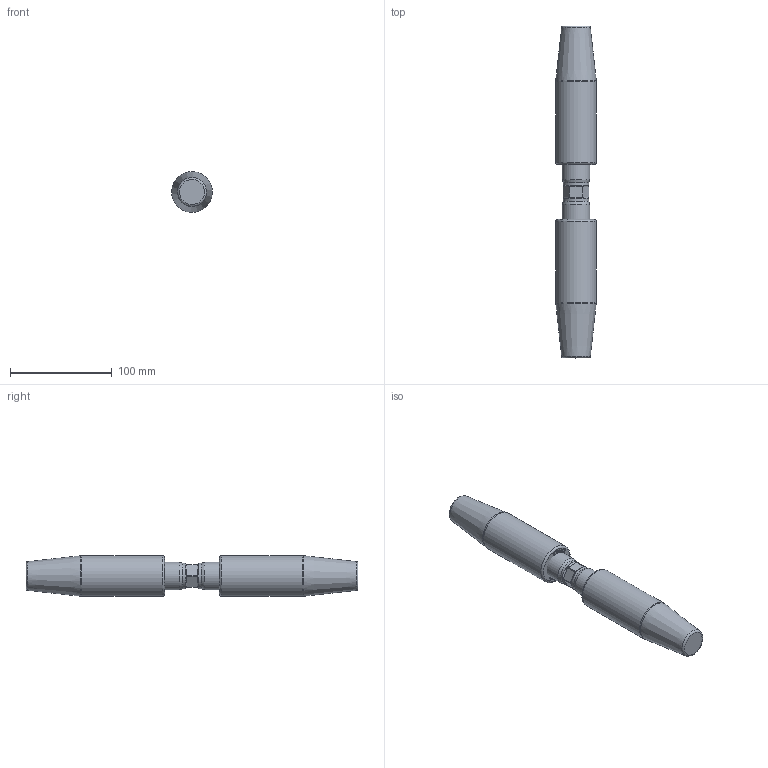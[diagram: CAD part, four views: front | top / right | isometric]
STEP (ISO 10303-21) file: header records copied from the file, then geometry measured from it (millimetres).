
FILE_DESCRIPTION(/* description */ (''),/* implementation_level */ '2;1');
FILE_NAME(/* name */ 'D:\Clienti\Redaelli (inventor)\CYA\STEP\Arrangement\CYA012 52 061 2.stp',/* time_stamp */ '2021-05-09T09:56:09+02:00',/* author */ ('fabri'),/* organization */ (''),/* preprocessor_version */ 'ST-DEVELOPER v16.13',/* originating_system */ 'Autodesk Inventor 2018',/* authorisation */ '');
FILE_SCHEMA (('AUTOMOTIVE_DESIGN { 1 0 10303 214 3 1 1 }'));
Length unit declared in the file: millimetre
Products named in the file (4): CYA012-54-062-0; TBF012-12-012-1; CYA012-52-0161-0_LH; TBF012-13-012-0
Assembly tree (3 placements, depth 2):
  CYA012-54-062-0
    TBF012-12-012-1
    CYA012-52-0161-0_LH
    TBF012-13-012-0
Bounding box: 39.9 x 326 x 39.9 mm (x, y, z)
Volume: 384349.2 mm3; surface area: 48768.2 mm2
Topology: 3 solids, 3 shells, 465 faces, 1250 edges, 834 vertices
Faces by surface type: bspline 228, plane 210, cylinder 17, cone 6, torus 4
Full cylindrical faces by diameter (mm): 25 x1, 27 x2, 40 x2
Entity records: 16040 total; most frequent: CARTESIAN_POINT 5895, ORIENTED_EDGE 2470, DIRECTION 1269, EDGE_CURVE 1235, VERTEX_POINT 834, LINE 733, VECTOR 733, EDGE_LOOP 523
